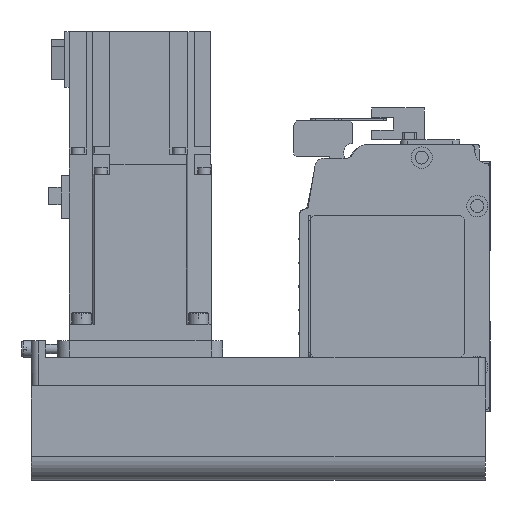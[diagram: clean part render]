
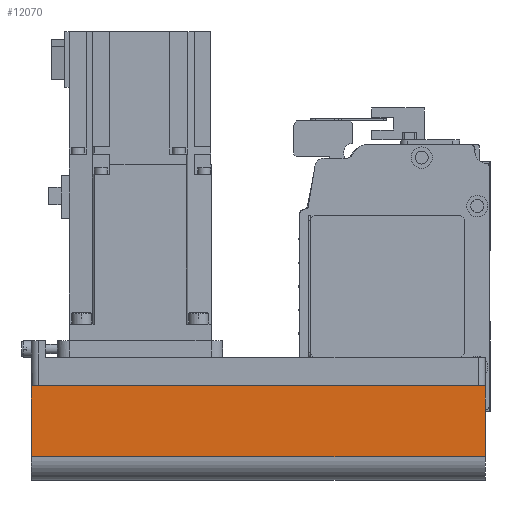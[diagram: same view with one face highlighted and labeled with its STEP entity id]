
A CAD part, left-side view. The second image highlights one B-rep face of the part: STEP entity #12070.
In plain terms, the highlighted planar face has unit normal (-1, 0, 0) as drawn and (0, -1, 0) by its records, which use the part's own axes.
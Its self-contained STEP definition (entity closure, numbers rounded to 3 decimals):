
#2179=ORIENTED_EDGE('',*,*,#4907,.F.);
#2180=ORIENTED_EDGE('',*,*,#4873,.F.);
#2181=ORIENTED_EDGE('',*,*,#4896,.T.);
#2182=ORIENTED_EDGE('',*,*,#4940,.T.);
#4873=EDGE_CURVE('',#6403,#6404,#7619,.T.);
#4896=EDGE_CURVE('',#6403,#6422,#7638,.T.);
#4907=EDGE_CURVE('',#6404,#6430,#7647,.T.);
#4940=EDGE_CURVE('',#6422,#6430,#7660,.T.);
#6403=VERTEX_POINT('',#18757);
#6404=VERTEX_POINT('',#18759);
#6422=VERTEX_POINT('',#18802);
#6430=VERTEX_POINT('',#18826);
#7619=LINE('',#18758,#8847);
#7638=LINE('',#18803,#8866);
#7647=LINE('',#18825,#8875);
#7660=LINE('',#18883,#8888);
#8847=VECTOR('',#15092,1000.);
#8866=VECTOR('',#15125,1000.);
#8875=VECTOR('',#15146,1000.);
#8888=VECTOR('',#15231,1000.);
#9944=EDGE_LOOP('',(#2179,#2180,#2181,#2182));
#10814=FACE_BOUND('',#9944,.T.);
#11515=PLANE('',#13005);
#12070=ADVANCED_FACE('',(#10814),#11515,.T.);
#13005=AXIS2_PLACEMENT_3D('',#18884,#15232,#15233);
#15092=DIRECTION('',(1.,0.,0.));
#15125=DIRECTION('',(0.,0.,-1.));
#15146=DIRECTION('',(0.,0.,-1.));
#15231=DIRECTION('',(1.,0.,0.));
#15232=DIRECTION('',(0.,-1.,0.));
#15233=DIRECTION('',(0.,0.,-1.));
#18757=CARTESIAN_POINT('',(-192.,-40.,-12.1));
#18758=CARTESIAN_POINT('',(-192.,-40.,-12.1));
#18759=CARTESIAN_POINT('',(0.,-40.,-12.1));
#18802=CARTESIAN_POINT('',(-192.,-40.,-42.));
#18803=CARTESIAN_POINT('',(-192.,-40.,-12.1));
#18825=CARTESIAN_POINT('',(0.,-40.,-12.1));
#18826=CARTESIAN_POINT('',(0.,-40.,-42.));
#18883=CARTESIAN_POINT('',(-192.,-40.,-42.));
#18884=CARTESIAN_POINT('',(-192.,-40.,-12.1));
